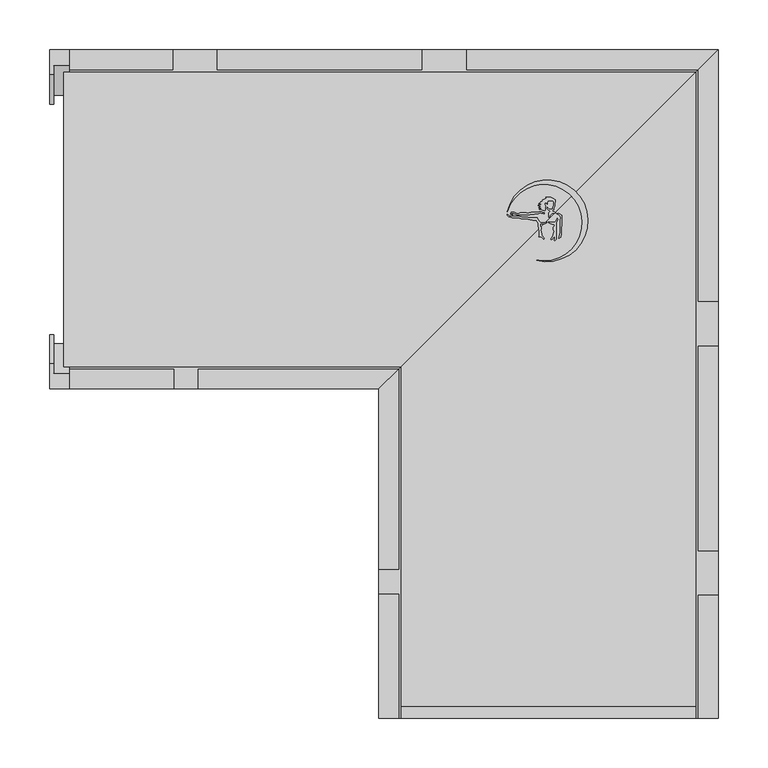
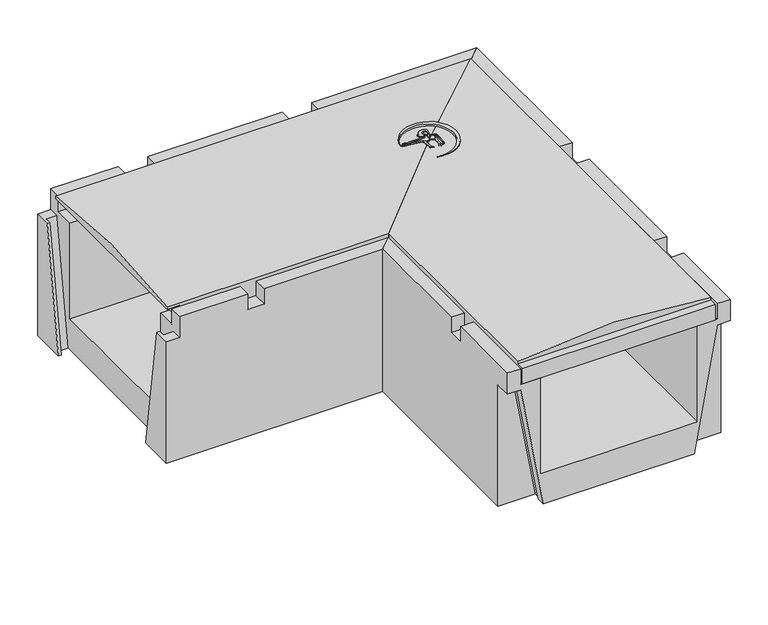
"""IFC4 building model written with IfcOpenShell, lengths in millimetres: cable carrier fitting geometry, Evotray type 2 horizontal bend : Evotray type 2 horizontal bend."""

from ifc_helpers import new_model, si_unit, point, frame, frame_2d, origin, place, context, project, spatial, polyline, circle_curve, ellipse_curve, trimmed, segment, composite_curve, outline, extrude, faceted_brep, source, transform, mapped, element, save
from ifc_brep_helpers import plane_surface, cylinder_surface, advanced_brep


def cable_carrier_fitting_630ba067(model_context):
    return source(origin(), model_context, "Body", "SolidModel", [
        extrude(outline(composite_curve([segment(polyline([(5.7066847, 7.5339815), (7.1323757, 6.7108584), (6.4234444, 6.3015567), (3.8585146, 6.3015567), (1.3990213, 3.8420634), (1.3990213, 2.2583954), (0.3415073, 1.9750354), (0.0101402, 3.2117144), (0.3323616, 4.414261), (0.3323616, 6.6410761), (1.7989023, 8.1076167), (1.3990213, 8.8002309), (0.3323616, 9.4160672), (-0.5259103, 9.9115907), (-1.5190339, 10.9047143), (-1.5190339, 12.1547711), (-0.7312397, 11.6999379), (0.3323616, 10.6363367), (1.3990213, 10.0205004), (3.7117859, 10.0205004), (4.3436846, 10.6523991), (4.3436846, 12.2608037), (4.7495416, 12.9637687), (4.9891116, 13.8578561), (4.9891116, 17.953291), (4.3436846, 18.598718), (0.3323616, 18.9496633), (-0.4158025, 18.5177106), (-0.8476511, 17.769727), (-1.0700445, 16.9397435), (-1.3427609, 15.393092), (-1.8987826, 15.9491137), (-2.4644384, 16.5147695), (-3.4249733, 16.5147695), (-3.8994127, 15.6930164), (-3.8994127, 14.868111), (-3.4973656, 14.1717449), (-2.7696709, 13.4440503), (-3.1663103, 11.9637721), (-3.5038102, 10.7042051), (-3.2010028, 8.9868987), (-4.0017959, 8.8456973), (-5.7322412, 9.3093687), (-6.9789504, 9.8907188), (-7.7322076, 10.2419684), (-9.3316562, 9.9599424), (-8.8640978, 10.7697774), (-7.2072768, 11.3728109)]), True, "CONTINUOUS"), segment(trimmed(circle_curve(frame_2d((-7.7734043, 11.1008716)), 0.6280537), [point((-7.2072768, 11.3728109))], [point((-7.9289865, 11.7093497))], True, "CARTESIAN"), True, "CONTINUOUS"), segment(polyline([(-7.9289865, 11.7093497), (-9.8760016, 11.7093497), (-9.3178235, 12.2675278), (-8.4670437, 12.5771863), (-7.6486042, 12.875074)]), True, "CONTINUOUS"), segment(trimmed(circle_curve(frame_2d((-8.3869291, 12.875074)), 0.7383249), [point((-7.6486042, 12.875074))], [point((-8.3869291, 13.6133989))], True, "CARTESIAN"), True, "CONTINUOUS"), segment(polyline([(-8.3869291, 13.6133989), (-10.0946767, 13.6133989), (-10.4861983, 14.2915342), (-8.6676062, 14.612201), (-7.3712682, 15.0840295), (-7.9920209, 15.7047821), (-9.9552404, 15.7047821), (-9.402658, 16.2573646), (-8.3728253, 16.8519388), (-7.6981009, 17.5266631), (-6.9752836, 17.9439819), (-6.0002716, 18.5069053)]), True, "CONTINUOUS"), segment(trimmed(circle_curve(frame_2d((-6.211257, 18.8723428)), 0.4219708), [point((-6.0002716, 18.5069053))], [point((-6.4222424, 19.2377802))], True, "CARTESIAN"), True, "CONTINUOUS"), segment(polyline([(-6.4222424, 19.2377802), (-5.8048457, 19.8551768), (-4.5021758, 20.3293099), (-3.5071192, 20.9038061), (-2.3755826, 21.1033266), (-2.7294084, 22.0754549), (2.2705916, 22.0754549), (3.2847654, 21.6025379), (4.4066204, 21.3019378), (5.4210665, 20.716247), (6.529743, 19.6075706), (6.529743, 17.0415553), (6.0408258, 16.1947259), (6.0408258, 13.46269), (5.5517909, 12.4139512), (5.144989, 11.7093497), (5.144989, 9.8605854), (4.3436846, 9.3979521), (3.5104061, 9.2510226)]), True, "CONTINUOUS"), segment(trimmed(circle_curve(frame_2d((4.5633576, 8.9688851)), 1.0900956), [point((3.5104061, 9.2510226))], [point((4.2812201, 7.9159336))], True, "CARTESIAN"), True, "CONTINUOUS"), segment(polyline([(4.2812201, 7.9159336), (5.7066847, 7.5339815)]), True, "CONTINUOUS")], self_intersect=False)), frame((0.0, 0.0, 223.75), z_axis=(0.0, 0.0, 1.0), x_axis=(1.0, 0.0, 0.0)), (0.0, 0.0, 1.0), 22.5),
        extrude(outline(polyline([(10.2633939, 4.6789788), (8.34075, 5.7890178), (9.5299901, 6.1076737), (10.9048454, 5.6072673), (13.0309946, 4.3797345), (13.442644, 2.8434379), (13.442644, 0.0702487), (13.0242632, -2.3025073), (12.698126, -11.6418533), (12.698126, -14.4967502), (12.1384781, -17.6706715), (10.979454, -18.8296956), (10.0819654, -18.8296956), (10.7568395, -16.975494), (11.0657951, -15.2233198), (11.5802524, -12.3056877), (11.5802524, -1.066223), (12.021887, 1.4384114), (11.4794102, 3.4629626), (10.2633939, 4.6789788)])), frame((0.0, 0.0, 223.75), z_axis=(0.0, 0.0, 1.0), x_axis=(1.0, 0.0, 0.0)), (0.0, 0.0, 1.0), 22.5),
        extrude(outline(composite_curve([segment(polyline([(2.835145, -2.929042), (4.8173464, -2.929042), (6.2856108, -2.6701473), (7.5908928, -1.3648653), (8.7710016, 1.1658863), (9.2519536, -0.1555184), (8.6292459, -1.4909195), (7.9586384, -2.929042), (7.9586384, -8.8872378), (7.5302593, -11.3166965), (7.5302593, -19.7978385), (6.0816006, -21.2464971), (5.5088634, -20.6737599), (6.1875834, -18.9313898), (6.4457288, -17.4673747)]), True, "CONTINUOUS"), segment(trimmed(circle_curve(frame_2d((6.0310807, -17.4673747)), 0.414648), [point((6.4457288, -17.4673747))], [point((5.6164327, -17.4673747))], True, "CARTESIAN"), True, "CONTINUOUS"), segment(polyline([(5.6164327, -17.4673747), (4.8507439, -18.2330635), (3.5838974, -19.7428323), (2.9283884, -20.3983414), (2.1360672, -20.0288759), (4.3002871, -16.820288), (4.6061967, -15.0853881), (5.4482546, -13.2795892), (5.7054621, -11.8208929), (4.9169534, -10.4551557), (4.9169534, -7.6886085), (6.2401018, -5.8190518)]), True, "CONTINUOUS"), segment(trimmed(circle_curve(frame_2d((5.9029968, -5.5804712)), 0.4129897), [point((6.2401018, -5.8190518))], [point((5.6644162, -5.2433662))], True, "CARTESIAN"), True, "CONTINUOUS"), segment(polyline([(5.6644162, -5.2433662), (3.6606012, -4.8900395), (2.2167047, -4.2167395), (0.3967041, -3.3680593), (0.3967041, -2.499079), (2.835145, -2.929042)]), True, "CONTINUOUS")], self_intersect=False)), frame((0.0, 0.0, 223.75), z_axis=(0.0, 0.0, 1.0), x_axis=(1.0, 0.0, 0.0)), (0.0, 0.0, 1.0), 22.5),
        extrude(outline(composite_curve([segment(polyline([(-39.5764509, 3.8801527), (-37.840777, 3.0707947), (-33.6543032, 3.0707947), (-32.5835821, 3.3576935), (-31.2570444, 3.3576935), (-29.5359356, 3.0707947), (-27.5296135, 2.5332023), (-26.3764254, 2.2242065), (-20.6845188, 2.2242065), (-18.0680229, 1.7880518), (-16.7404602, 1.4323324), (-11.1262179, 1.4323324)]), True, "CONTINUOUS"), segment(trimmed(circle_curve(frame_2d((-2.2726518, 4.337939)), 9.3181642), [point((-11.1262179, 1.4323324))], [point((-7.7719502, -3.184421))], True, "CARTESIAN"), True, "CONTINUOUS"), segment(polyline([(-7.7719502, -3.184421), (-4.7201653, -3.184421), (-2.6855868, -3.0064185), (-1.5465828, -2.4752922), (-1.8041028, -3.4363696), (-2.748197, -3.9814427), (-3.7068839, -4.3303762), (-6.941589, -4.2174178), (-8.1302836, -4.6500673), (-8.5392779, -5.5271586), (-8.4641973, -6.3853337), (-7.9853132, -7.2147854), (-7.2647077, -7.9353909), (-7.2647077, -9.6916034), (-7.6300079, -10.6952577), (-7.4857413, -12.3442325), (-6.980649, -14.2292627), (-6.8325299, -15.9222719), (-4.4611948, -18.6501808), (-4.6698718, -19.8336466), (-7.2647077, -17.2388107), (-8.2275393, -17.4968007), (-9.6307155, -17.2493828), (-9.3551551, -16.4922869), (-9.3551551, -14.2182314), (-9.1795513, -13.2223327), (-9.3551551, -11.2151718), (-9.7308175, -10.1830477), (-9.7308175, -8.3578648), (-10.1771532, -7.4006948), (-10.1771532, -5.0229453), (-10.4255935, -4.0957537), (-10.8775638, -3.3129181), (-11.3262756, -2.5357266), (-11.940718, -1.9212842), (-12.3745692, -0.9908871), (-15.9755074, -0.8651396), (-18.3196594, -0.4743831), (-20.3522527, 0.0702487), (-23.6938723, 0.4214671), (-25.7734854, 0.4214671), (-27.11572, 0.7811177), (-28.639315, 1.1893638), (-29.9825683, 1.8157331), (-30.9769571, 1.8157331), (-33.6283974, 1.8157331), (-34.7406415, 1.5177082), (-36.6039235, 1.713547), (-38.0929983, 1.9617671), (-39.7663059, 2.7420433), (-40.7422322, 3.7179696), (-41.3813153, 4.3570527), (-41.3813153, 5.1439324), (-39.5764509, 3.8801527)]), True, "CONTINUOUS")], self_intersect=False)), frame((0.0, 0.0, 223.75), z_axis=(0.0, 0.0, 1.0), x_axis=(1.0, 0.0, 0.0)), (0.0, 0.0, 1.0), 22.5),
        extrude(outline(composite_curve([segment(polyline([(-37.0742183, 5.4241248), (-36.050904, 4.833314), (-37.7785644, 5.3529849), (-38.1087109, 6.2705486), (-37.2703865, 7.108873), (-34.397568, 7.108873), (-33.413131, 6.7111347), (-32.3226422, 6.2705486), (-31.5244486, 5.8097113), (-30.2642185, 5.8097113), (-29.4431934, 6.1051225), (-28.5579412, 6.6162232), (-22.1442362, 6.6162232), (-21.2886616, 6.2705486), (-20.2182596, 6.2705486), (-19.2575394, 6.6162232), (-18.0783827, 6.6162232), (-17.3600437, 7.0309564), (-11.9473884, 7.0309564), (-11.1871078, 7.3045113), (-9.9449498, 7.3045113), (-9.3691812, 7.8802798), (-7.4116178, 7.8802798), (-6.1236167, 7.3598936), (-5.1117003, 6.7756634), (-4.3072592, 6.4506481)]), True, "CONTINUOUS"), segment(trimmed(circle_curve(frame_2d((-4.7145916, 6.2860752)), 0.4393221), [point((-4.3072592, 6.4506481))], [point((-4.8791645, 5.8787428))], False, "CARTESIAN"), True, "CONTINUOUS"), segment(polyline([(-4.8791645, 5.8787428), (-5.8948932, 6.2891238), (-7.206551, 6.2891238), (-8.476981, 6.5131349), (-9.2890054, 6.2209622), (-10.4319793, 5.8097113), (-13.7761773, 5.8097113), (-14.5672506, 5.3529849), (-18.1345709, 5.3529849), (-19.0174332, 4.8432641), (-29.0174332, 4.8432641), (-31.6280973, 4.6148606), (-35.316625, 6.1051225), (-37.4673925, 6.1051225), (-37.0742183, 5.4241248)]), True, "CONTINUOUS")], self_intersect=False)), frame((0.0, 0.0, 223.75), z_axis=(0.0, 0.0, 1.0), x_axis=(1.0, 0.0, 0.0)), (0.0, 0.0, 1.0), 22.5),
        extrude(outline(composite_curve([segment(trimmed(circle_curve(frame_2d((-4.4939582, -3.2457098)), 38.3616107), [point((-11.901795, -40.8852785))], [point((-41.2054935, 7.8842657))], True, "CARTESIAN"), True, "CONTINUOUS"), segment(trimmed(circle_curve(frame_2d((-1.3645575, -1.3653761)), 40.900563), [point((-41.2054935, 7.8842657))], [point((-11.901795, -40.8852785))], False, "CARTESIAN"), True, "CONTINUOUS")], self_intersect=False)), frame((0.0, 0.0, 223.75), z_axis=(0.0, 0.0, 1.0), x_axis=(1.0, 0.0, 0.0)), (0.0, 0.0, 1.0), 22.5),
        advanced_brep(
        [(-147.5, -500.0, 205.0), (-147.5, -147.5, 205.0), (147.5, 147.5, 205.0), (147.5, -500.0, 205.0), (147.5, -500.0, 230.0), (-147.5, -500.0, 230.0), (147.5, 147.5, 234.0), (147.5, -488.0, 234.0), (147.5, -488.0, 230.0), (-147.5, -147.5, 234.0), (-147.5, -488.0, 230.0), (-147.5, -488.0, 234.0)],
        [
            (0, 1),
            (1, 2),
            (2, 3),
            (3, 0),
            (3, 4),
            (4, 5),
            (5, 0),
            (2, 6),
            (6, 7),
            (7, 8),
            (8, 4),
            (1, 9),
            (9, 6, ellipse_curve(frame((0.0, 0.0, -679.7103316), z_axis=(-0.7071067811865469, 0.7071067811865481, 0.0), x_axis=(-0.707106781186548, -0.7071067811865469, 0.0)), 1308.9100962, 925.539205)),
            (5, 10),
            (10, 11),
            (11, 9),
            (8, 10),
            (7, 11, circle_curve(frame((0.0, -488.0, -679.7103316), z_axis=(0.0, -1.0, 0.0), x_axis=(-1.0, 0.0, 0.0)), 925.539205)),
        ],
        [
            plane_surface(frame((80.0, -500.0, 205.0), z_axis=(0.0, 0.0, -1.0), x_axis=(-1.0, 0.0, 0.0))),
            plane_surface(frame((-147.5, -500.0, 246.0), z_axis=(0.0, -1.0, 0.0), x_axis=(0.0, 0.0, -1.0))),
            plane_surface(frame((147.5, -500.0, 246.0), z_axis=(1.0, 0.0, 0.0), x_axis=(0.0, 0.0, -1.0))),
            plane_surface(frame((147.5, 147.5, 246.0), z_axis=(-0.7071067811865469, 0.7071067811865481, 0.0), x_axis=(0.0, 0.0, -1.0))),
            plane_surface(frame((-147.5, -147.5, 246.0), z_axis=(-1.0, 0.0, 0.0), x_axis=(0.0, 0.0, -1.0))),
            plane_surface(frame((-77.6, -488.0, 230.0), z_axis=(0.0, 0.0, 1.0), x_axis=(1.0, 0.0, 0.0))),
            plane_surface(frame((147.5, -488.0, 246.0), z_axis=(0.0, -1.0, 0.0), x_axis=(0.0, 0.0, -1.0))),
            cylinder_surface(frame((0.0, 0.0, -679.7103316), z_axis=(0.0, -1.0, 0.0), x_axis=(-1.0, 0.0, 0.0)), 925.539205),
        ],
        [
            (0, [[1, 2, 3, 4]]),
            (1, [[-4, 5, 6, 7]]),
            (2, [[-3, 8, 9, 10, 11, -5]]),
            (3, [[-2, 12, 13, -8]]),
            (4, [[-1, -7, 14, 15, 16, -12]]),
            (5, [[17, -14, -6, -11]]),
            (6, [[-17, -10, 18, -15]]),
            (7, [[-9, -13, -16, -18]]),
        ],
    ),
        advanced_brep(
        [(147.5, 147.5, 205.0), (-147.5, -147.5, 205.0), (-466.0, -147.5, 205.0), (-466.0, 147.5, 205.0), (-147.5, -147.5, 230.0), (-147.5, -147.5, 234.0), (-486.0, -147.5, 234.0), (-486.0, -147.5, 230.0), (-466.0, -147.5, 230.0), (147.5, 147.5, 230.0), (147.5, 147.5, 234.0), (-466.0, 147.5, 230.0), (-486.0, 147.5, 230.0), (-486.0, 147.5, 234.0)],
        [
            (0, 1),
            (1, 2),
            (2, 3),
            (3, 0),
            (1, 4),
            (4, 5),
            (5, 6),
            (6, 7),
            (7, 8),
            (8, 2),
            (0, 9),
            (9, 10),
            (10, 5, ellipse_curve(frame((0.0, 0.0, -679.7103316), z_axis=(0.7071067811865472, -0.7071067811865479, 0.0), x_axis=(0.7071067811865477, 0.7071067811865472, 0.0)), 1308.9100962, 925.539205)),
            (3, 11),
            (11, 12),
            (12, 13),
            (13, 10),
            (12, 7),
            (6, 13, circle_curve(frame((-486.0, 0.0, -679.7103316), z_axis=(-1.0, 0.0, 0.0), x_axis=(0.0, -1.0, 0.0)), 925.539205)),
            (11, 8),
        ],
        [
            plane_surface(frame((-77.5, -147.5, 205.0), z_axis=(0.0, 0.0, -1.0), x_axis=(-1.0, 0.0, 0.0))),
            plane_surface(frame((-486.0, -147.5, 246.0), z_axis=(0.0, -1.0, 0.0), x_axis=(0.0, 0.0, -1.0))),
            plane_surface(frame((-147.5, -147.5, 246.0), z_axis=(0.7071067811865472, -0.7071067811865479, 0.0), x_axis=(0.0, 0.0, -1.0))),
            plane_surface(frame((147.5, 147.5, 246.0), z_axis=(0.0, 1.0, 0.0), x_axis=(0.0, 0.0, -1.0))),
            plane_surface(frame((-486.0, 147.5, 246.0), z_axis=(-1.0, 0.0, 0.0), x_axis=(0.0, 0.0, -1.0))),
            plane_surface(frame((-486.0, 147.5, 230.0), z_axis=(0.0, 0.0, -1.0), x_axis=(-1.0, 0.0, 0.0))),
            plane_surface(frame((-466.0, -147.5, 230.0), z_axis=(-1.0, 0.0, 0.0), x_axis=(0.0, 0.0, -1.0))),
            cylinder_surface(frame((-486.0, 0.0, -679.7103316), z_axis=(1.0, 0.0, 0.0), x_axis=(0.0, -1.0, 0.0)), 925.539205),
        ],
        [
            (0, [[1, 2, 3, 4]]),
            (1, [[5, 6, 7, 8, 9, 10, -2]]),
            (2, [[-1, 11, 12, 13, -6, -5]]),
            (3, [[-11, -4, 14, 15, 16, 17, -12]]),
            (4, [[18, -8, 19, -16]]),
            (5, [[20, -9, -18, -15]]),
            (6, [[-20, -14, -3, -10]]),
            (7, [[-7, -13, -17, -19]]),
        ],
    ),
        faceted_brep([(-150.0, -150.0, 230.0), (-170.0, -170.0, 230.0), (-170.0, -351.0, 230.0), (-150.0, -351.0, 230.0), (170.0, 170.0, 230.0), (150.0, 150.0, 230.0), (150.0, -82.0, 230.0), (170.0, -82.0, 230.0), (150.0, -500.0, 230.0), (170.0, -500.0, 230.0), (170.0, -377.0, 230.0), (150.0, -377.0, 230.0), (-170.0, -500.0, 230.0), (-150.0, -500.0, 230.0), (-150.0, -376.0, 230.0), (-170.0, -376.0, 230.0), (170.0, -332.0, 230.0), (170.0, -127.0, 230.0), (150.0, -127.0, 230.0), (150.0, -332.0, 230.0), (-170.0, -170.0, 0.0), (170.0, 170.0, 0.0), (170.0, -475.0, 0.0), (113.0, -475.0, 0.0), (113.0, -487.0, 0.0), (115.4, -487.0, 0.0), (115.4, -500.0, 0.0), (-115.4, -500.0, 0.0), (-115.4, -487.0, 0.0), (-113.0, -487.0, 0.0), (-113.0, -475.0, 0.0), (-170.0, -475.0, 0.0), (170.0, -82.0, 205.0), (170.0, -127.0, 205.0), (170.0, -332.0, 205.0), (170.0, -377.0, 205.0), (170.0, -500.0, 196.0), (170.0, -475.0, 196.0), (-150.0, -150.0, 205.0), (-120.0, -120.0, 205.0), (-120.0, -120.0, 50.0), (120.0, 120.0, 50.0), (120.0, 120.0, 205.0), (150.0, 150.0, 205.0), (-170.0, -475.0, 196.0), (-170.0, -500.0, 196.0), (-170.0, -376.0, 205.0), (-170.0, -351.0, 205.0), (-150.0, -500.0, 196.0), (150.0, -500.0, 196.0), (150.0, -500.0, 205.0), (120.0, -500.0, 205.0), (120.0, -500.0, 50.0), (-120.0, -500.0, 50.0), (-120.0, -500.0, 205.0), (-150.0, -500.0, 205.0), (-150.0, -487.0, 196.0), (-147.6, -475.0, 196.0), (-147.6, -487.0, 196.0), (150.0, -487.0, 196.0), (147.6, -487.0, 196.0), (147.6, -475.0, 196.0), (-150.0, -351.0, 205.0), (-150.0, -376.0, 205.0), (150.0, -377.0, 205.0), (150.0, -332.0, 205.0), (150.0, -127.0, 205.0), (150.0, -82.0, 205.0)], [[[0, 1, 2, 3]], [[4, 5, 6, 7]], [[8, 9, 10, 11]], [[12, 13, 14, 15]], [[16, 17, 18, 19]], [[20, 21, 22, 23, 24, 25, 26, 27, 28, 29, 30, 31]], [[21, 4, 7, 32, 33, 17, 16, 34, 35, 10, 9, 36, 37, 22]], [[21, 20, 1, 0, 38, 39, 40, 41, 42, 43, 5, 4]], [[1, 20, 31, 44, 45, 12, 15, 46, 47, 2]], [[12, 45, 48, 27, 26, 49, 36, 9, 8, 50, 51, 52, 53, 54, 55, 13]], [[56, 48, 45, 44, 57, 58]], [[48, 56, 28, 27]], [[49, 59, 60, 61, 37, 36]], [[59, 49, 26, 25]], [[58, 29, 28, 56]], [[58, 57, 30, 29]], [[57, 44, 31, 30]], [[24, 60, 59, 25]], [[61, 60, 24, 23]], [[37, 61, 23, 22]], [[39, 38, 62, 47, 46, 63, 55, 54]], [[43, 42, 51, 50, 64, 35, 34, 65, 66, 33, 32, 67]], [[19, 18, 66, 65]], [[5, 43, 67, 6]], [[50, 8, 11, 64]], [[38, 0, 3, 62]], [[13, 55, 63, 14]], [[52, 41, 40, 53]], [[41, 52, 51, 42]], [[53, 40, 39, 54]], [[47, 62, 3, 2]], [[63, 46, 15, 14]], [[67, 32, 7, 6]], [[33, 66, 18, 17]], [[65, 34, 16, 19]], [[35, 64, 11, 10]]]),
        faceted_brep([(-170.0, -170.0, 230.0), (-150.0, -150.0, 230.0), (-351.0, -150.0, 230.0), (-351.0, -170.0, 230.0), (150.0, 150.0, 230.0), (170.0, 170.0, 230.0), (-82.0, 170.0, 230.0), (-82.0, 150.0, 230.0), (-127.0, 170.0, 230.0), (-332.0, 170.0, 230.0), (-332.0, 150.0, 230.0), (-127.0, 150.0, 230.0), (-376.0, -170.0, 230.0), (-376.0, -150.0, 230.0), (-480.0, -150.0, 230.0), (-480.0, -170.0, 230.0), (-377.0, 150.0, 230.0), (-377.0, 170.0, 230.0), (-480.0, 170.0, 230.0), (-480.0, 150.0, 230.0), (-500.0, 170.0, 0.0), (170.0, 170.0, 0.0), (-170.0, -170.0, 0.0), (-500.0, -170.0, 0.0), (-500.0, -115.5, 0.0), (-496.0, -115.5, 0.0), (-496.0, -124.6, 0.0), (-480.0, -124.6, 0.0), (-480.0, 124.6, 0.0), (-496.0, 124.6, 0.0), (-496.0, 115.4, 0.0), (-500.0, 115.4, 0.0), (-500.0, 170.0, 196.0), (-500.0, 144.8852174, 196.0), (-500.0, -170.0, 196.0), (-500.0, -144.9, 196.0), (-351.0, -170.0, 205.0), (-376.0, -170.0, 205.0), (-480.0, -170.0, 196.0), (150.0, 150.0, 205.0), (120.0, 120.0, 205.0), (120.0, 120.0, 50.0), (-120.0, -120.0, 50.0), (-120.0, -120.0, 205.0), (-150.0, -150.0, 205.0), (-480.0, 170.0, 196.0), (-377.0, 170.0, 205.0), (-332.0, 170.0, 205.0), (-127.0, 170.0, 205.0), (-82.0, 170.0, 205.0), (-82.0, 150.0, 205.0), (-127.0, 150.0, 205.0), (-332.0, 150.0, 205.0), (-377.0, 150.0, 205.0), (-480.0, 150.0, 205.0), (-480.0, 147.5, 205.0), (-480.0, 120.0, 205.0), (-466.0, 120.0, 205.0), (-466.0, -120.0, 205.0), (-480.0, -120.0, 205.0), (-480.0, -147.5, 205.0), (-480.0, -150.0, 205.0), (-376.0, -150.0, 205.0), (-351.0, -150.0, 205.0), (-480.0, 120.0, 50.0), (-480.0, -120.0, 50.0), (-480.0, -154.0852174, 196.0), (-496.0, -154.0852174, 196.0), (-496.0, -144.9, 196.0), (-496.0, 144.8852174, 196.0), (-496.0, 154.0, 196.0), (-480.0, 154.0, 196.0)], [[[0, 1, 2, 3]], [[4, 5, 6, 7]], [[8, 9, 10, 11]], [[12, 13, 14, 15]], [[16, 17, 18, 19]], [[20, 21, 22, 23, 24, 25, 26, 27, 28, 29, 30, 31]], [[32, 20, 31, 33]], [[23, 34, 35, 24]], [[23, 22, 0, 3, 36, 37, 12, 15, 38, 34]], [[22, 21, 5, 4, 39, 40, 41, 42, 43, 44, 1, 0]], [[21, 20, 32, 45, 18, 17, 46, 47, 9, 8, 48, 49, 6, 5]], [[40, 39, 50, 49, 48, 51, 52, 47, 46, 53, 54, 55, 56, 57]], [[44, 43, 58, 59, 60, 61, 62, 37, 36, 63]], [[1, 44, 63, 2]], [[13, 62, 61, 14]], [[11, 10, 52, 51]], [[39, 4, 7, 50]], [[53, 16, 19, 54]], [[42, 41, 64, 65]], [[41, 40, 57, 56, 64]], [[43, 42, 65, 59, 58]], [[37, 62, 13, 12]], [[63, 36, 3, 2]], [[53, 46, 17, 16]], [[47, 52, 10, 9]], [[51, 48, 8, 11]], [[49, 50, 7, 6]], [[34, 38, 66, 67, 68, 35]], [[45, 32, 33, 69, 70, 71]], [[38, 15, 14, 61, 60, 59, 65, 64, 56, 55, 54, 19, 18, 45, 71, 28, 27, 66]], [[31, 30, 69, 33]], [[25, 24, 35, 68]], [[28, 71, 70, 29]], [[29, 70, 69, 30]], [[67, 26, 25, 68]], [[66, 27, 26, 67]]]),
    ])


if __name__ == "__main__":
    model = new_model("IFC4")
    model_context = context("Model", 3, world=origin())
    ifc_project = project(units=[si_unit("LENGTHUNIT", "METRE", prefix="MILLI")], contexts=[model_context])
    site = spatial("IfcSite", under=ifc_project)
    building = spatial("IfcBuilding", under=site)
    placement = place(None, origin())
    cable_carrier_fitting_shape = cable_carrier_fitting_630ba067(model_context)
    element("IfcCableCarrierFitting", 1, ObjectType="Evotray type 2 horizontal bend : Evotray type 2 horizontal bend", at=placement, inside=building, context=model_context, shape_type="MappedRepresentation", body=[
        mapped(cable_carrier_fitting_shape, transform((0.0, 0.0, 0.0), x_axis=(1.0, 0.0, 0.0), y_axis=(0.0, 1.0, 0.0), z_axis=(0.0, 0.0, 1.0))),
    ])
    save(model, "model.ifc")
